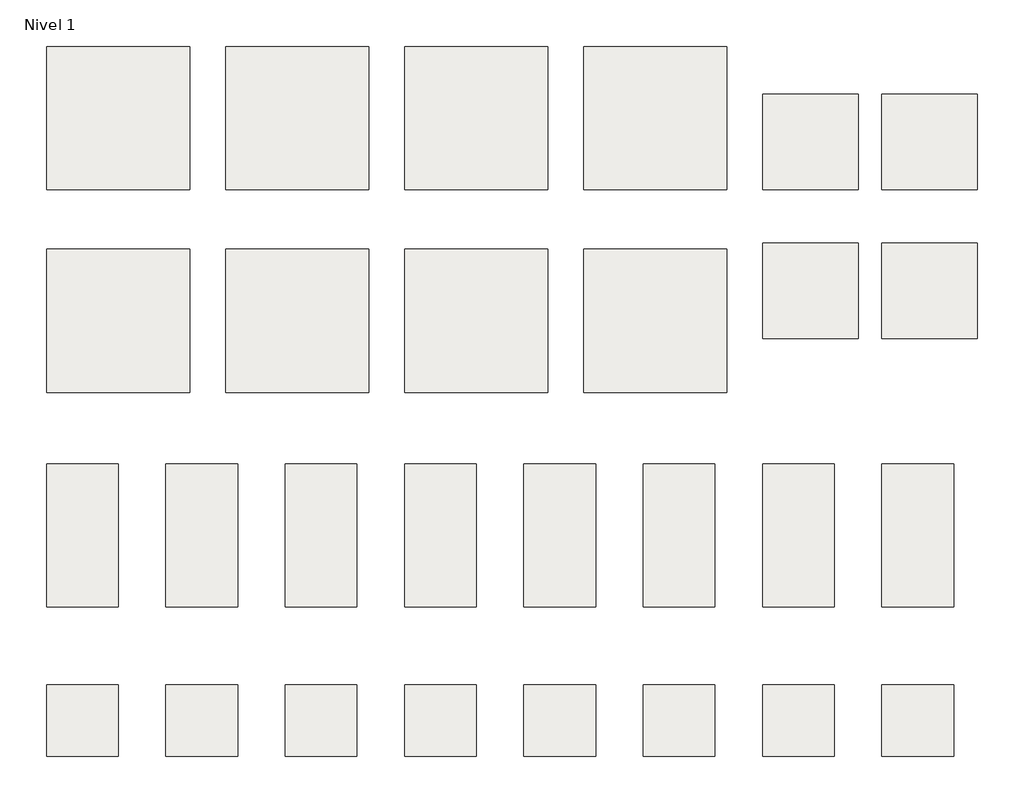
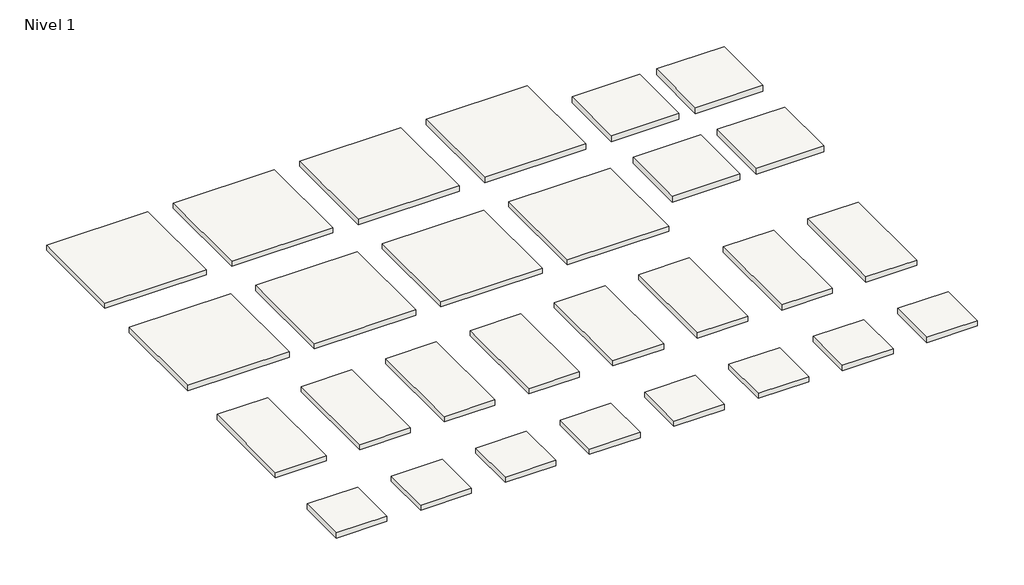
# One storey: 28 slabs.
"""IFC4 building model written with IfcOpenShell, lengths in millimetres."""

from ifc_helpers import new_model, si_unit, frame, origin, place, context, project, spatial, polyline, outline, extrude, element, save

model = new_model("IFC4")

# Units and contexts
model_context = context("Model", 3, world=origin())
ifc_project = project(units=[si_unit("LENGTHUNIT", "METRE", prefix="MILLI")], contexts=[model_context])

# Site, building, storey
site = spatial("IfcSite", under=ifc_project)
building = spatial("IfcBuilding", under=site)
storey = spatial("IfcBuildingStorey", under=building, Name="Nivel 1", Elevation=0.0)

# Slabs
placement = place(None, origin())
element("IfcSlab", 1, ObjectType="Mitica Antracita 120X120", at=placement, inside=storey, context=model_context, shape_type="SweptSolid", body=[
    extrude(outline(polyline([(0.0, 1200.0), (1200.0, 1200.0), (1200.0, 0.0), (0.0, 0.0), (0.0, 1200.0)])), frame((0.0, 0.0, -65.0), z_axis=(0.0, 0.0, 1.0), x_axis=(1.0, 0.0, 0.0)), (0.0, 0.0, 1.0), 65.0),
])
element("IfcSlab", 2, ObjectType="Mitica Arena 120X120", at=placement, inside=storey, context=model_context, shape_type="SweptSolid", body=[
    extrude(outline(polyline([(1500.0, 1200.0), (2700.0, 1200.0), (2700.0, 0.0), (1500.0, 0.0), (1500.0, 1200.0)])), frame((0.0, 0.0, -65.0), z_axis=(0.0, 0.0, 1.0), x_axis=(1.0, 0.0, 0.0)), (0.0, 0.0, 1.0), 65.0),
])
element("IfcSlab", 3, ObjectType="Mitica Blanco 120X120", at=placement, inside=storey, context=model_context, shape_type="SweptSolid", body=[
    extrude(outline(polyline([(3000.0, 1200.0), (4200.0, 1200.0), (4200.0, 0.0), (3000.0, 0.0), (3000.0, 1200.0)])), frame((0.0, 0.0, -65.0), z_axis=(0.0, 0.0, 1.0), x_axis=(1.0, 0.0, 0.0)), (0.0, 0.0, 1.0), 65.0),
])
element("IfcSlab", 4, ObjectType="Mitica Gris 120X120", at=placement, inside=storey, context=model_context, shape_type="SweptSolid", body=[
    extrude(outline(polyline([(4500.0, 1200.0), (5700.0, 1200.0), (5700.0, 0.0), (4500.0, 0.0), (4500.0, 1200.0)])), frame((0.0, 0.0, -65.0), z_axis=(0.0, 0.0, 1.0), x_axis=(1.0, 0.0, 0.0)), (0.0, 0.0, 1.0), 65.0),
])
element("IfcSlab", 5, ObjectType="Mitica Antislip Antracita 120X120", at=placement, inside=storey, context=model_context, shape_type="SweptSolid", body=[
    extrude(outline(polyline([(0.0, -500.0), (1200.0, -500.0), (1200.0, -1700.0), (0.0, -1700.0), (0.0, -500.0)])), frame((0.0, 0.0, -65.0), z_axis=(0.0, 0.0, 1.0), x_axis=(1.0, 0.0, 0.0)), (0.0, 0.0, 1.0), 65.0),
])
element("IfcSlab", 6, ObjectType="Mitica Antislip Arena 120X120", at=placement, inside=storey, context=model_context, shape_type="SweptSolid", body=[
    extrude(outline(polyline([(1500.0, -500.0), (2700.0, -500.0), (2700.0, -1700.0), (1500.0, -1700.0), (1500.0, -500.0)])), frame((0.0, 0.0, -65.0), z_axis=(0.0, 0.0, 1.0), x_axis=(1.0, 0.0, 0.0)), (0.0, 0.0, 1.0), 65.0),
])
element("IfcSlab", 7, ObjectType="Mitica Antislip Blanco 120X120", at=placement, inside=storey, context=model_context, shape_type="SweptSolid", body=[
    extrude(outline(polyline([(3000.0, -500.0), (4200.0, -500.0), (4200.0, -1700.0), (3000.0, -1700.0), (3000.0, -500.0)])), frame((0.0, 0.0, -65.0), z_axis=(0.0, 0.0, 1.0), x_axis=(1.0, 0.0, 0.0)), (0.0, 0.0, 1.0), 65.0),
])
element("IfcSlab", 8, ObjectType="Mitica Antislip Gris 120X120", at=placement, inside=storey, context=model_context, shape_type="SweptSolid", body=[
    extrude(outline(polyline([(4500.0, -500.0), (5700.0, -500.0), (5700.0, -1700.0), (4500.0, -1700.0), (4500.0, -500.0)])), frame((0.0, 0.0, -65.0), z_axis=(0.0, 0.0, 1.0), x_axis=(1.0, 0.0, 0.0)), (0.0, 0.0, 1.0), 65.0),
])
element("IfcSlab", 9, ObjectType="Mitica Antracita 60X120", at=placement, inside=storey, context=model_context, shape_type="SweptSolid", body=[
    extrude(outline(polyline([(0.0, -2300.0), (600.0, -2300.0), (600.0, -3500.0), (0.0, -3500.0), (0.0, -2300.0)])), frame((0.0, 0.0, -65.0), z_axis=(0.0, 0.0, 1.0), x_axis=(1.0, 0.0, 0.0)), (0.0, 0.0, 1.0), 65.0),
])
element("IfcSlab", 10, ObjectType="Mitica Arena 60X120", at=placement, inside=storey, context=model_context, shape_type="SweptSolid", body=[
    extrude(outline(polyline([(1000.0, -2300.0), (1600.0, -2300.0), (1600.0, -3500.0), (1000.0, -3500.0), (1000.0, -2300.0)])), frame((0.0, 0.0, -65.0), z_axis=(0.0, 0.0, 1.0), x_axis=(1.0, 0.0, 0.0)), (0.0, 0.0, 1.0), 65.0),
])
element("IfcSlab", 11, ObjectType="Mitica Blanco 60X120", at=placement, inside=storey, context=model_context, shape_type="SweptSolid", body=[
    extrude(outline(polyline([(2000.0, -2300.0), (2600.0, -2300.0), (2600.0, -3500.0), (2000.0, -3500.0), (2000.0, -2300.0)])), frame((0.0, 0.0, -65.0), z_axis=(0.0, 0.0, 1.0), x_axis=(1.0, 0.0, 0.0)), (0.0, 0.0, 1.0), 65.0),
])
element("IfcSlab", 12, ObjectType="Mitica Gris 60X120", at=placement, inside=storey, context=model_context, shape_type="SweptSolid", body=[
    extrude(outline(polyline([(3000.0, -2300.0), (3600.0, -2300.0), (3600.0, -3500.0), (3000.0, -3500.0), (3000.0, -2300.0)])), frame((0.0, 0.0, -65.0), z_axis=(0.0, 0.0, 1.0), x_axis=(1.0, 0.0, 0.0)), (0.0, 0.0, 1.0), 65.0),
])
element("IfcSlab", 13, ObjectType="Mitica Antislip Antracita 60X120", at=placement, inside=storey, context=model_context, shape_type="SweptSolid", body=[
    extrude(outline(polyline([(4000.0, -2300.0), (4600.0, -2300.0), (4600.0, -3500.0), (4000.0, -3500.0), (4000.0, -2300.0)])), frame((0.0, 0.0, -65.0), z_axis=(0.0, 0.0, 1.0), x_axis=(1.0, 0.0, 0.0)), (0.0, 0.0, 1.0), 65.0),
])
element("IfcSlab", 14, ObjectType="Mitica Antislip Arena 60X120", at=placement, inside=storey, context=model_context, shape_type="SweptSolid", body=[
    extrude(outline(polyline([(5000.0, -2300.0), (5600.0, -2300.0), (5600.0, -3500.0), (5000.0, -3500.0), (5000.0, -2300.0)])), frame((0.0, 0.0, -65.0), z_axis=(0.0, 0.0, 1.0), x_axis=(1.0, 0.0, 0.0)), (0.0, 0.0, 1.0), 65.0),
])
element("IfcSlab", 15, ObjectType="Mitica Antislip Blanco 60X120", at=placement, inside=storey, context=model_context, shape_type="SweptSolid", body=[
    extrude(outline(polyline([(6000.0, -2300.0), (6600.0, -2300.0), (6600.0, -3500.0), (6000.0, -3500.0), (6000.0, -2300.0)])), frame((0.0, 0.0, -65.0), z_axis=(0.0, 0.0, 1.0), x_axis=(1.0, 0.0, 0.0)), (0.0, 0.0, 1.0), 65.0),
])
element("IfcSlab", 16, ObjectType="Mitica Antislip Gris 60X120", at=placement, inside=storey, context=model_context, shape_type="SweptSolid", body=[
    extrude(outline(polyline([(7000.0, -2300.0), (7600.0, -2300.0), (7600.0, -3500.0), (7000.0, -3500.0), (7000.0, -2300.0)])), frame((0.0, 0.0, -65.0), z_axis=(0.0, 0.0, 1.0), x_axis=(1.0, 0.0, 0.0)), (0.0, 0.0, 1.0), 65.0),
])
element("IfcSlab", 17, ObjectType="Mitica Antracita 60X60", at=placement, inside=storey, context=model_context, shape_type="SweptSolid", body=[
    extrude(outline(polyline([(0.0, -4150.0), (600.0, -4150.0), (600.0, -4750.0), (0.0, -4750.0), (0.0, -4150.0)])), frame((0.0, 0.0, -65.0), z_axis=(0.0, 0.0, 1.0), x_axis=(1.0, 0.0, 0.0)), (0.0, 0.0, 1.0), 65.0),
])
element("IfcSlab", 18, ObjectType="Mitica Arena 60X60", at=placement, inside=storey, context=model_context, shape_type="SweptSolid", body=[
    extrude(outline(polyline([(1000.0, -4150.0), (1600.0, -4150.0), (1600.0, -4750.0), (1000.0, -4750.0), (1000.0, -4150.0)])), frame((0.0, 0.0, -65.0), z_axis=(0.0, 0.0, 1.0), x_axis=(1.0, 0.0, 0.0)), (0.0, 0.0, 1.0), 65.0),
])
element("IfcSlab", 19, ObjectType="Mitica Blanco 60X60", at=placement, inside=storey, context=model_context, shape_type="SweptSolid", body=[
    extrude(outline(polyline([(2000.0, -4150.0), (2600.0, -4150.0), (2600.0, -4750.0), (2000.0, -4750.0), (2000.0, -4150.0)])), frame((0.0, 0.0, -65.0), z_axis=(0.0, 0.0, 1.0), x_axis=(1.0, 0.0, 0.0)), (0.0, 0.0, 1.0), 65.0),
])
element("IfcSlab", 20, ObjectType="Mitica Gris 60X60", at=placement, inside=storey, context=model_context, shape_type="SweptSolid", body=[
    extrude(outline(polyline([(3000.0, -4150.0), (3600.0, -4150.0), (3600.0, -4750.0), (3000.0, -4750.0), (3000.0, -4150.0)])), frame((0.0, 0.0, -65.0), z_axis=(0.0, 0.0, 1.0), x_axis=(1.0, 0.0, 0.0)), (0.0, 0.0, 1.0), 65.0),
])
element("IfcSlab", 21, ObjectType="Mitica Antislip Antracita 60X60", at=placement, inside=storey, context=model_context, shape_type="SweptSolid", body=[
    extrude(outline(polyline([(4000.0, -4150.0), (4600.0, -4150.0), (4600.0, -4750.0), (4000.0, -4750.0), (4000.0, -4150.0)])), frame((0.0, 0.0, -65.0), z_axis=(0.0, 0.0, 1.0), x_axis=(1.0, 0.0, 0.0)), (0.0, 0.0, 1.0), 65.0),
])
element("IfcSlab", 22, ObjectType="Mitica Antislip Arena 60X60", at=placement, inside=storey, context=model_context, shape_type="SweptSolid", body=[
    extrude(outline(polyline([(5000.0, -4150.0), (5600.0, -4150.0), (5600.0, -4750.0), (5000.0, -4750.0), (5000.0, -4150.0)])), frame((0.0, 0.0, -65.0), z_axis=(0.0, 0.0, 1.0), x_axis=(1.0, 0.0, 0.0)), (0.0, 0.0, 1.0), 65.0),
])
element("IfcSlab", 23, ObjectType="Mitica Antislip Blanco 60X60", at=placement, inside=storey, context=model_context, shape_type="SweptSolid", body=[
    extrude(outline(polyline([(6000.0, -4150.0), (6600.0, -4150.0), (6600.0, -4750.0), (6000.0, -4750.0), (6000.0, -4150.0)])), frame((0.0, 0.0, -65.0), z_axis=(0.0, 0.0, 1.0), x_axis=(1.0, 0.0, 0.0)), (0.0, 0.0, 1.0), 65.0),
])
element("IfcSlab", 24, ObjectType="Mitica Antislip Gris 60X60", at=placement, inside=storey, context=model_context, shape_type="SweptSolid", body=[
    extrude(outline(polyline([(7000.0, -4150.0), (7600.0, -4150.0), (7600.0, -4750.0), (7000.0, -4750.0), (7000.0, -4150.0)])), frame((0.0, 0.0, -65.0), z_axis=(0.0, 0.0, 1.0), x_axis=(1.0, 0.0, 0.0)), (0.0, 0.0, 1.0), 65.0),
])
element("IfcSlab", 25, ObjectType="Mitica Antracita 20 80X80", at=placement, inside=storey, context=model_context, shape_type="SweptSolid", body=[
    extrude(outline(polyline([(6000.0, 800.0), (6800.0, 800.0), (6800.0, 0.0), (6000.0, 0.0), (6000.0, 800.0)])), frame((0.0, 0.0, -75.0), z_axis=(0.0, 0.0, 1.0), x_axis=(1.0, 0.0, 0.0)), (0.0, 0.0, 1.0), 75.0),
])
element("IfcSlab", 26, ObjectType="Mitica Arena 20 80X80", at=placement, inside=storey, context=model_context, shape_type="SweptSolid", body=[
    extrude(outline(polyline([(7000.0, 800.0), (7800.0, 800.0), (7800.0, 0.0), (7000.0, 0.0), (7000.0, 800.0)])), frame((0.0, 0.0, -75.0), z_axis=(0.0, 0.0, 1.0), x_axis=(1.0, 0.0, 0.0)), (0.0, 0.0, 1.0), 75.0),
])
element("IfcSlab", 27, ObjectType="Mitica Blanco 20 80X80", at=placement, inside=storey, context=model_context, shape_type="SweptSolid", body=[
    extrude(outline(polyline([(6000.0, -450.0), (6800.0, -450.0), (6800.0, -1250.0), (6000.0, -1250.0), (6000.0, -450.0)])), frame((0.0, 0.0, -75.0), z_axis=(0.0, 0.0, 1.0), x_axis=(1.0, 0.0, 0.0)), (0.0, 0.0, 1.0), 75.0),
])
element("IfcSlab", 28, ObjectType="Mitica Gris 20 80X80", at=placement, inside=storey, context=model_context, shape_type="SweptSolid", body=[
    extrude(outline(polyline([(7000.0, -450.0), (7800.0, -450.0), (7800.0, -1250.0), (7000.0, -1250.0), (7000.0, -450.0)])), frame((0.0, 0.0, -75.0), z_axis=(0.0, 0.0, 1.0), x_axis=(1.0, 0.0, 0.0)), (0.0, 0.0, 1.0), 75.0),
])

save(model, "model.ifc")
